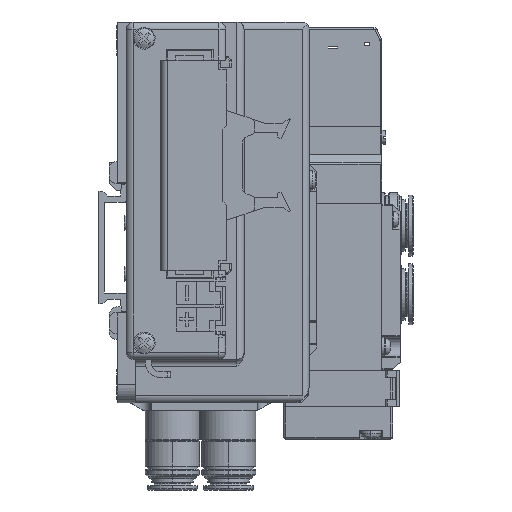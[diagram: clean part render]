
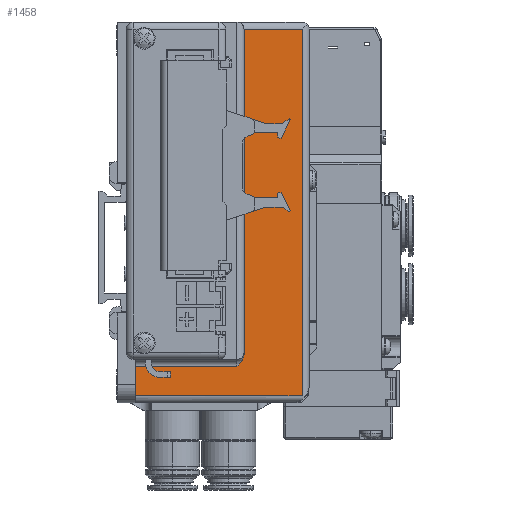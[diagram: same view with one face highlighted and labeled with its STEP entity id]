
A CAD part, left-side view. The second image highlights one B-rep face of the part: STEP entity #1458.
In plain terms, the highlighted planar face has unit normal (-1, 0, 0).
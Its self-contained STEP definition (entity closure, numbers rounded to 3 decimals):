
#1458=ADVANCED_FACE('',(#8755),#8754,.F.);
#8754=PLANE('',#21538);
#8755=FACE_OUTER_BOUND('',#21539,.T.);
#21535=CARTESIAN_POINT('',(19.5,-60.6,70.2));
#21536=DIRECTION('',(1.,0.,0.));
#21537=DIRECTION('',(0.,0.,-1.));
#21538=AXIS2_PLACEMENT_3D('',#21535,#21536,#21537);
#21539=EDGE_LOOP('',(#33394,#33395,#33396,#33397,#33398,#33399,#33400));
#33394=ORIENTED_EDGE('',*,*,#41728,.F.);
#33395=ORIENTED_EDGE('',*,*,#41671,.T.);
#33396=ORIENTED_EDGE('',*,*,#41925,.T.);
#33397=ORIENTED_EDGE('',*,*,#41515,.T.);
#33398=ORIENTED_EDGE('',*,*,#41786,.F.);
#33399=ORIENTED_EDGE('',*,*,#41788,.F.);
#33400=ORIENTED_EDGE('',*,*,#41725,.T.);
#41515=EDGE_CURVE('',#55041,#55042,#55043,.T.);
#41671=EDGE_CURVE('',#56107,#55097,#56120,.T.);
#41725=EDGE_CURVE('',#56477,#56470,#56478,.T.);
#41728=EDGE_CURVE('',#56107,#56470,#56496,.T.);
#41786=EDGE_CURVE('',#56881,#55042,#56882,.T.);
#41788=EDGE_CURVE('',#56477,#56881,#56894,.T.);
#41925=EDGE_CURVE('',#55097,#55041,#57827,.T.);
#55041=VERTEX_POINT('',#78339);
#55042=VERTEX_POINT('',#78340);
#55043=(BOUNDED_CURVE() B_SPLINE_CURVE(3,(#78341,#78342,#78343,#78344,#78345,#78346,#78347,#78348,#78349,#78350),.UNSPECIFIED.,.F.,.F.) B_SPLINE_CURVE_WITH_KNOTS((4,2,2,2,4),(0.,0.001,0.002,0.003,0.004),.UNSPECIFIED.) CURVE() GEOMETRIC_REPRESENTATION_ITEM() RATIONAL_B_SPLINE_CURVE((1.,1.,1.,1.,1.,1.,1.,1.,1.,1.)) REPRESENTATION_ITEM('') );
#55097=VERTEX_POINT('',#78382);
#56107=VERTEX_POINT('',#78970);
#56120=LINE('',#78977,#78978);
#56470=VERTEX_POINT('',#79189);
#56477=VERTEX_POINT('',#79193);
#56478=LINE('',#79194,#79195);
#56496=LINE('',#79215,#79216);
#56881=VERTEX_POINT('',#79443);
#56882=LINE('',#79444,#79445);
#56894=LINE('',#79451,#79452);
#57827=LINE('',#80018,#80019);
#78339=CARTESIAN_POINT('',(19.5,-40.,-29.336));
#78340=CARTESIAN_POINT('',(19.5,-38.,-32.8));
#78341=CARTESIAN_POINT('',(19.5,-40.,-29.336));
#78342=CARTESIAN_POINT('',(19.5,-40.,-29.683));
#78343=CARTESIAN_POINT('',(19.5,-39.934,-30.018));
#78344=CARTESIAN_POINT('',(19.5,-39.703,-30.669));
#78345=CARTESIAN_POINT('',(19.5,-39.543,-30.97));
#78346=CARTESIAN_POINT('',(19.5,-39.164,-31.539));
#78347=CARTESIAN_POINT('',(19.5,-38.945,-31.807));
#78348=CARTESIAN_POINT('',(19.5,-38.485,-32.315));
#78349=CARTESIAN_POINT('',(19.5,-38.241,-32.559));
#78350=CARTESIAN_POINT('',(19.5,-38.,-32.8));
#78382=CARTESIAN_POINT('',(19.5,-40.,60.2));
#78970=CARTESIAN_POINT('',(19.5,-56.,60.2));
#78977=CARTESIAN_POINT('',(19.5,-56.,60.2));
#78978=VECTOR('',#78979,16.);
#78979=DIRECTION('',(0.,1.,0.));
#79189=CARTESIAN_POINT('',(19.5,-56.,-40.8));
#79193=CARTESIAN_POINT('',(19.5,-10.,-40.8));
#79194=CARTESIAN_POINT('',(19.5,-10.,-40.8));
#79195=VECTOR('',#79196,46.);
#79196=DIRECTION('',(0.,-1.,0.));
#79215=CARTESIAN_POINT('',(19.5,-56.,60.2));
#79216=VECTOR('',#79217,101.);
#79217=DIRECTION('',(0.,0.,-1.));
#79443=CARTESIAN_POINT('',(19.5,-10.,-32.8));
#79444=CARTESIAN_POINT('',(19.5,-10.,-32.8));
#79445=VECTOR('',#79446,28.);
#79446=DIRECTION('',(0.,-1.,0.));
#79451=CARTESIAN_POINT('',(19.5,-10.,-40.8));
#79452=VECTOR('',#79453,8.);
#79453=DIRECTION('',(0.,0.,1.));
#80018=CARTESIAN_POINT('',(19.5,-40.,60.2));
#80019=VECTOR('',#80020,89.536);
#80020=DIRECTION('',(0.,0.,-1.));
